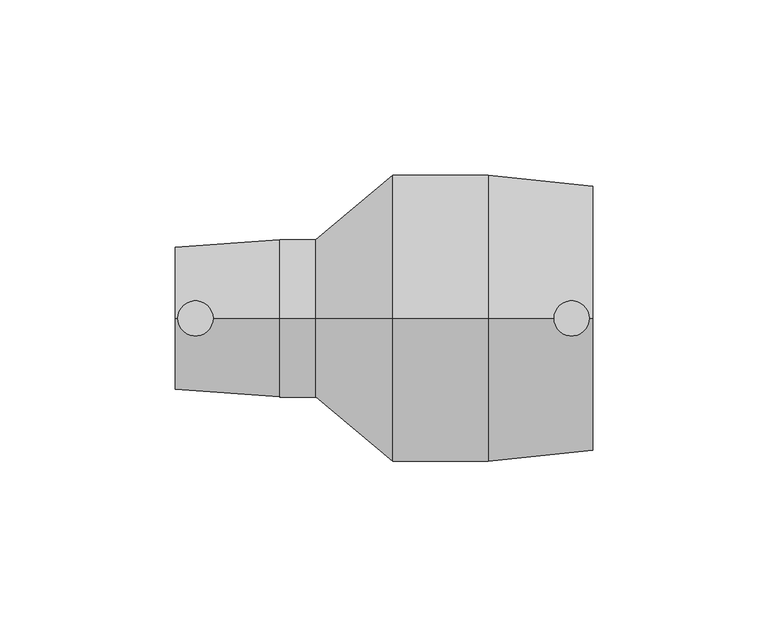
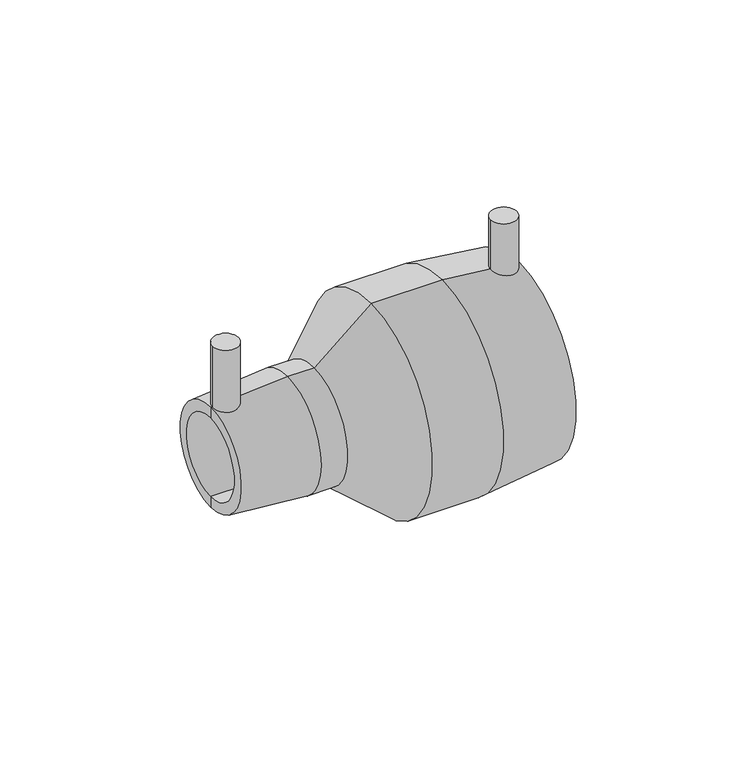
"""IFC4 building model written with IfcOpenShell, lengths in millimetres: pipe fitting geometry, Plumbing_Pipe-Fittings_Plasson_Reducing-Coupler_491104 : Plumbing_Pipe-Fittings_Plasson_Reducing-Coupler_491104."""

from ifc_helpers import new_model, si_unit, point, frame, frame_2d, origin, place, context, project, spatial, polyline, circle_curve, trimmed, segment, composite_curve, outline, extrude, source, transform, mapped, element, save
from ifc_brep_helpers import plane_surface, cylinder_surface, revolved_surface, advanced_brep


def pipe_fitting_d52059ed(model_context):
    return source(origin(), model_context, "Body", "SolidModel", [
        extrude(outline(composite_curve([segment(trimmed(circle_curve(frame_2d((-53.7602891, 0.0)), 5.0), [point((-58.7602891, 0.0))], [point((-48.7602891, 0.0))], False, "CARTESIAN"), True, "CONTINUOUS"), segment(trimmed(circle_curve(frame_2d((-53.7602891, 0.0)), 5.0), [point((-48.7602891, 0.0))], [point((-58.7602891, 0.0))], False, "CARTESIAN"), True, "CONTINUOUS")], self_intersect=False)), frame((0.0, 0.0, 19.25), z_axis=(0.0, 0.0, 1.0), x_axis=(1.0, 0.0, 0.0)), (0.0, 0.0, 1.0), 25.75),
        extrude(outline(composite_curve([segment(trimmed(circle_curve(frame_2d((53.5, 0.0)), 5.0), [point((48.5, 0.0))], [point((58.5, 0.0))], False, "CARTESIAN"), True, "CONTINUOUS"), segment(trimmed(circle_curve(frame_2d((53.5, 0.0)), 5.0), [point((58.5, 0.0))], [point((48.5, 0.0))], False, "CARTESIAN"), True, "CONTINUOUS")], self_intersect=False)), frame((0.0, 0.0, 36.25), z_axis=(0.0, 0.0, 1.0), x_axis=(1.0, 0.0, 0.0)), (0.0, 0.0, 1.0), 22.75),
        advanced_brep(
        [(-19.5, 0.0, -16.0), (-19.5, 0.0, 16.0), (-59.5, 0.0, 16.0), (-59.5, 0.0, -16.0), (59.5, 0.0, -37.8333333), (59.5, 0.0, 37.8333333), (59.5, 0.0, 31.5), (59.5, 0.0, -31.5), (2.5, 0.0, -41.0), (2.5, 0.0, 41.0), (29.75, 0.0, 41.0), (29.75, 0.0, -41.0), (-59.5, 0.0, 20.3333333), (-59.5, 0.0, -20.3333333), (2.5, 0.0, 31.5), (2.5, 0.0, -31.5), (-19.5, 0.0, -13.0), (-19.5, 0.0, 13.0), (2.5, 0.0, -13.0), (2.5, 0.0, 13.0), (-19.5, 0.0, -22.5), (-19.5, 0.0, 22.5), (-29.75, 0.0, -22.5), (-29.75, 0.0, 22.5)],
        [
            (0, 1, circle_curve(frame((-19.5, 0.0, 0.0), z_axis=(1.0, 0.0, 0.0), x_axis=(0.0, 0.0, 1.0)), 16.0)),
            (1, 2),
            (2, 3, circle_curve(frame((-59.5, 0.0, 0.0), z_axis=(-1.0, 0.0, 0.0), x_axis=(0.0, 0.0, 1.0)), 16.0)),
            (3, 0),
            (1, 0, circle_curve(frame((-19.5, 0.0, 0.0), z_axis=(1.0, 0.0, 0.0), x_axis=(0.0, 0.0, 1.0)), 16.0)),
            (3, 2, circle_curve(frame((-59.5, 0.0, 0.0), z_axis=(-1.0, 0.0, 0.0), x_axis=(0.0, 0.0, 1.0)), 16.0)),
            (4, 5, circle_curve(frame((59.5, 0.0, 0.0), z_axis=(1.0, 0.0, 0.0), x_axis=(0.0, 0.0, 1.0)), 37.8333333)),
            (5, 6),
            (6, 7, circle_curve(frame((59.5, 0.0, 0.0), z_axis=(-1.0, 0.0, 0.0), x_axis=(0.0, 0.0, 1.0)), 31.5)),
            (7, 4),
            (5, 4, circle_curve(frame((59.5, 0.0, 0.0), z_axis=(1.0, 0.0, 0.0), x_axis=(0.0, 0.0, 1.0)), 37.8333333)),
            (7, 6, circle_curve(frame((59.5, 0.0, 0.0), z_axis=(-1.0, 0.0, 0.0), x_axis=(0.0, 0.0, 1.0)), 31.5)),
            (8, 9, circle_curve(frame((2.5, 0.0, 0.0), z_axis=(1.0, 0.0, 0.0), x_axis=(0.0, 0.0, 1.0)), 41.0)),
            (9, 10),
            (10, 11, circle_curve(frame((29.75, 0.0, 0.0), z_axis=(-1.0, 0.0, 0.0), x_axis=(0.0, 0.0, 1.0)), 41.0)),
            (11, 8),
            (9, 8, circle_curve(frame((2.5, 0.0, 0.0), z_axis=(1.0, 0.0, 0.0), x_axis=(0.0, 0.0, 1.0)), 41.0)),
            (11, 10, circle_curve(frame((29.75, 0.0, 0.0), z_axis=(-1.0, 0.0, 0.0), x_axis=(0.0, 0.0, 1.0)), 41.0)),
            (2, 12),
            (12, 13, circle_curve(frame((-59.5, 0.0, 0.0), z_axis=(-1.0, 0.0, 0.0), x_axis=(0.0, 0.0, 1.0)), 20.3333333)),
            (13, 3),
            (13, 12, circle_curve(frame((-59.5, 0.0, 0.0), z_axis=(-1.0, 0.0, 0.0), x_axis=(0.0, 0.0, 1.0)), 20.3333333)),
            (10, 5),
            (4, 11),
            (6, 14),
            (14, 15, circle_curve(frame((2.5, 0.0, 0.0), z_axis=(-1.0, 0.0, 0.0), x_axis=(0.0, 0.0, 1.0)), 31.5)),
            (15, 7),
            (15, 14, circle_curve(frame((2.5, 0.0, 0.0), z_axis=(-1.0, 0.0, 0.0), x_axis=(0.0, 0.0, 1.0)), 31.5)),
            (16, 17, circle_curve(frame((-19.5, 0.0, 0.0), z_axis=(1.0, 0.0, 0.0), x_axis=(0.0, 0.0, 1.0)), 13.0)),
            (17, 1),
            (0, 16),
            (17, 16, circle_curve(frame((-19.5, 0.0, 0.0), z_axis=(1.0, 0.0, 0.0), x_axis=(0.0, 0.0, 1.0)), 13.0)),
            (18, 19, circle_curve(frame((2.5, 0.0, 0.0), z_axis=(1.0, 0.0, 0.0), x_axis=(0.0, 0.0, 1.0)), 13.0)),
            (19, 17),
            (16, 18),
            (19, 18, circle_curve(frame((2.5, 0.0, 0.0), z_axis=(1.0, 0.0, 0.0), x_axis=(0.0, 0.0, 1.0)), 13.0)),
            (14, 19),
            (18, 15),
            (20, 21, circle_curve(frame((-19.5, 0.0, 0.0), z_axis=(1.0, 0.0, 0.0), x_axis=(0.0, 0.0, 1.0)), 22.5)),
            (21, 9),
            (8, 20),
            (21, 20, circle_curve(frame((-19.5, 0.0, 0.0), z_axis=(1.0, 0.0, 0.0), x_axis=(0.0, 0.0, 1.0)), 22.5)),
            (22, 23, circle_curve(frame((-29.75, 0.0, 0.0), z_axis=(1.0, 0.0, 0.0), x_axis=(0.0, 0.0, 1.0)), 22.5)),
            (23, 21),
            (20, 22),
            (23, 22, circle_curve(frame((-29.75, 0.0, 0.0), z_axis=(1.0, 0.0, 0.0), x_axis=(0.0, 0.0, 1.0)), 22.5)),
            (12, 23),
            (22, 13),
        ],
        [
            revolved_surface(polyline([(-59.5, 0.0, 16.0), (-19.5, 0.0, 16.0)]), (-59.5, 0.0, 0.0), (-1.0, 0.0, 0.0)),
            plane_surface(frame((59.5, 0.0, 0.0), z_axis=(1.0, 0.0, 0.0), x_axis=(0.0, 0.0, 1.0))),
            cylinder_surface(frame((-59.5, 0.0, 0.0), z_axis=(-1.0, 0.0, 0.0), x_axis=(0.0, 0.0, 1.0)), 41.0),
            plane_surface(frame((-59.5, 0.0, 0.0), z_axis=(-1.0, 0.0, 0.0), x_axis=(0.0, 0.0, 1.0))),
            revolved_surface(polyline([(59.5, 0.0, 37.8333333), (29.75, 0.0, 41.0)]), (-59.5, 0.0, 0.0), (-1.0, 0.0, 0.0)),
            revolved_surface(polyline([(2.5, 0.0, 31.5), (59.5, 0.0, 31.5)]), (-59.5, 0.0, 0.0), (-1.0, 0.0, 0.0)),
            plane_surface(frame((-19.5, 0.0, 0.0), z_axis=(-1.0, 0.0, 0.0), x_axis=(0.0, 0.0, 1.0))),
            revolved_surface(polyline([(-19.5, 0.0, 13.0), (2.5, 0.0, 13.0)]), (-59.5, 0.0, 0.0), (-1.0, 0.0, 0.0)),
            plane_surface(frame((2.5, 0.0, 0.0), z_axis=(1.0, 0.0, 0.0), x_axis=(0.0, 0.0, 1.0))),
            revolved_surface(polyline([(2.5, 0.0, 41.0), (-19.5, 0.0, 22.5)]), (-59.5, 0.0, 0.0), (-1.0, 0.0, 0.0)),
            cylinder_surface(frame((-59.5, 0.0, 0.0), z_axis=(-1.0, 0.0, 0.0), x_axis=(0.0, 0.0, 1.0)), 22.5),
            revolved_surface(polyline([(-29.75, 0.0, 22.5), (-59.5, 0.0, 20.3333333)]), (-59.5, 0.0, 0.0), (-1.0, 0.0, 0.0)),
        ],
        [
            (0, [[1, 2, 3, 4]]),
            (0, [[5, -4, 6, -2]]),
            (1, [[7, 8, 9, 10]]),
            (1, [[11, -10, 12, -8]]),
            (2, [[13, 14, 15, 16]]),
            (2, [[17, -16, 18, -14]]),
            (3, [[-3, 19, 20, 21]]),
            (3, [[-6, -21, 22, -19]]),
            (4, [[-15, 23, -7, 24]]),
            (4, [[-18, -24, -11, -23]]),
            (5, [[-9, 25, 26, 27]]),
            (5, [[-12, -27, 28, -25]]),
            (6, [[29, 30, -1, 31]]),
            (6, [[32, -31, -5, -30]]),
            (7, [[33, 34, -29, 35]]),
            (7, [[36, -35, -32, -34]]),
            (8, [[-26, 37, -33, 38]]),
            (8, [[-28, -38, -36, -37]]),
            (9, [[39, 40, -13, 41]]),
            (9, [[42, -41, -17, -40]]),
            (10, [[43, 44, -39, 45]]),
            (10, [[46, -45, -42, -44]]),
            (11, [[-20, 47, -43, 48]]),
            (11, [[-22, -48, -46, -47]]),
        ],
    ),
    ])


if __name__ == "__main__":
    model = new_model("IFC4")
    model_context = context("Model", 3, world=origin())
    ifc_project = project(units=[si_unit("LENGTHUNIT", "METRE", prefix="MILLI")], contexts=[model_context])
    site = spatial("IfcSite", under=ifc_project)
    building = spatial("IfcBuilding", under=site)
    placement = place(None, origin())
    pipe_fitting_shape = pipe_fitting_d52059ed(model_context)
    element("IfcPipeFitting", 1, ObjectType="Plumbing_Pipe-Fittings_Plasson_Reducing-Coupler_491104 : Plumbing_Pipe-Fittings_Plasson_Reducing-Coupler_491104", at=placement, inside=building, context=model_context, shape_type="MappedRepresentation", body=[
        mapped(pipe_fitting_shape, transform((0.0, 0.0, 0.0), x_axis=(1.0, 0.0, 0.0), y_axis=(0.0, 1.0, 0.0), z_axis=(0.0, 0.0, 1.0))),
    ])
    save(model, "model.ifc")
